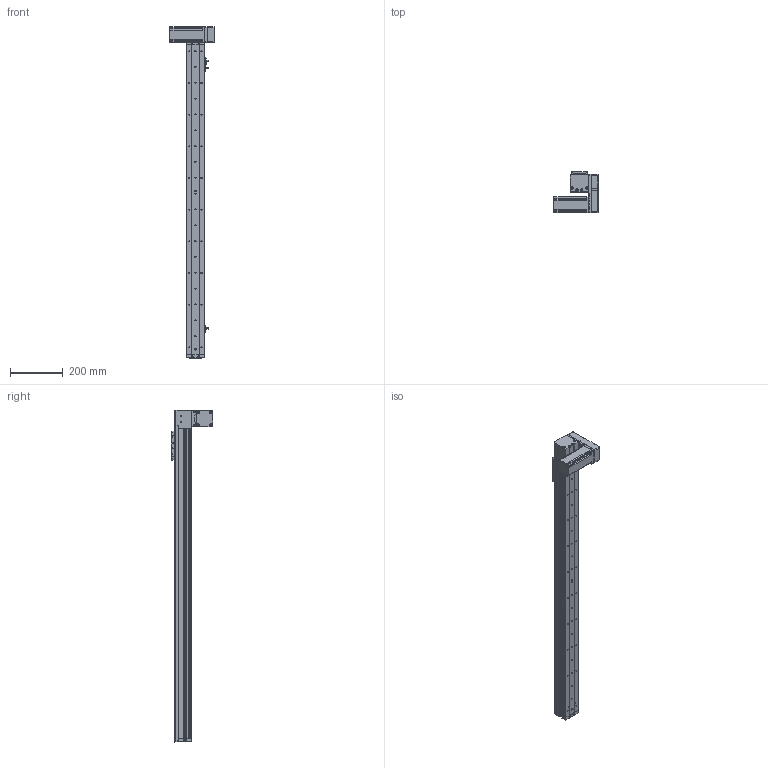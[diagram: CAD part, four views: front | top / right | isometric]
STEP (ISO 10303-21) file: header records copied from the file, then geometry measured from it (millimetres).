
FILE_DESCRIPTION (( 'STEP AP214' ), '1' );
FILE_NAME ('KSD68BS-S1000-MLD-CR.STEP', '2019-08-27T03:58:54', ( '微软用户' ), ( '微软中国' ), 'SwSTEP 2.0', 'SolidWorks 2014', '' );
FILE_SCHEMA (( 'AUTOMOTIVE_DESIGN' ));
Length unit declared in the file: millimetre
Products named in the file (14): 68宽单导轨全封闭丝杆传动安装板1防护罩; KSD68BS 1000行程侧板全封闭; 68宽单导轨全封闭同步带端板; 68单导轨全封闭同步带电机座左; 68单导轨全封闭同步带安装板; 68遵裔啣揤啣1; 悵誘欶奻狟殏; 68宽马达安装板连板上折同步带; 感应片68宽全封闭; U倰嫖萇EEㄜSX672; KSD68BS 1000行程盖板全封闭; 台达ECMA－C20604AS伺服电机（400W); KSD68BS 1000行程底板全封闭; KSD68BS-S1000-MLD-CR
Assembly tree (17 placements, depth 2):
  KSD68BS-S1000-MLD-CR
    KSD68BS 1000行程底板全封闭
    台达ECMA－C20604AS伺服电机（400W)
    U倰嫖萇EEㄜSX672  x3
    感应片68宽全封闭
    68宽马达安装板连板上折同步带
    悵誘欶奻狟殏
    68单导轨全封闭同步带安装板
    68单导轨全封闭同步带电机座左
    68宽单导轨全封闭同步带端板
    KSD68BS 1000行程侧板全封闭  x2
    68宽单导轨全封闭丝杆传动安装板1防护罩
    68遵裔啣揤啣1  x2
    KSD68BS 1000行程盖板全封闭
Bounding box: 167.2 x 155.5 x 1258.1 mm (x, y, z)
Volume: 2535944.3 mm3; surface area: 972434.5 mm2
Topology: 18 solids, 18 shells, 1525 faces, 4339 edges, 2774 vertices
Faces by surface type: cylinder 728, plane 629, cone 168
Entity records: 48463 total; most frequent: CARTESIAN_POINT 8357, DIRECTION 7246, ORIENTED_EDGE 6930, EDGE_CURVE 3465, AXIS2_PLACEMENT_3D 2619, VERTEX_POINT 2272, LINE 2008, VECTOR 2008
